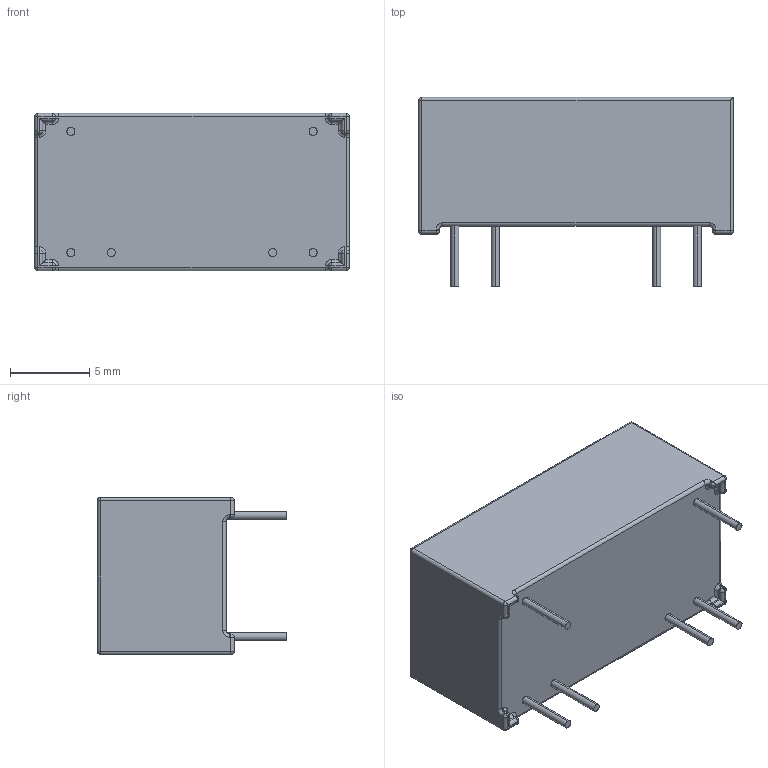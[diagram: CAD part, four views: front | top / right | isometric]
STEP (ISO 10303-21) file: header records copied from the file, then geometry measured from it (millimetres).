
FILE_DESCRIPTION (( 'STEP AP214' ), '1' );
FILE_NAME ('98-1-A.STEP', '2010-11-26T15:16:18', ( ' ' ), ( '' ), 'SwSTEP 2.0', 'SolidWorks 2009', '' );
FILE_SCHEMA (( 'AUTOMOTIVE_DESIGN' ));
Length unit declared in the file: millimetre
Products named in the file (1): 98-1-A
Bounding box: 19.8 x 11.9 x 9.9 mm (x, y, z)
Volume: 1591.7 mm3; surface area: 905.2 mm2
Topology: 1 solids, 1 shells, 918 faces, 2386 edges, 1540 vertices
Faces by surface type: plane 507, bspline 292, cylinder 81, sphere 22, torus 16
Entity records: 61846 total; most frequent: CARTESIAN_POINT 31289, ORIENTED_EDGE 4728, DIRECTION 3182, EDGE_CURVE 2364, VECTOR 1612, LINE 1612, VERTEX_POINT 1540, EDGE_LOOP 1010
